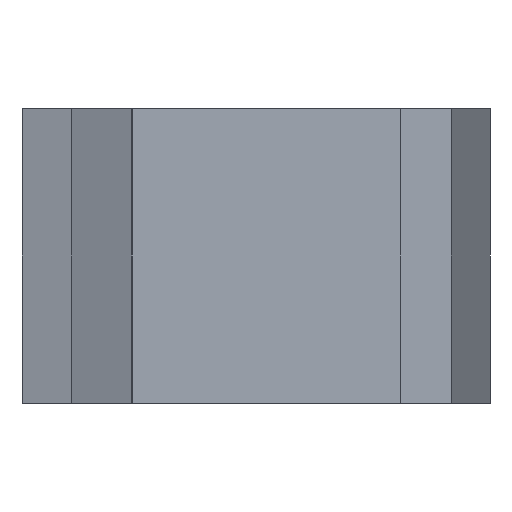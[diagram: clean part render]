
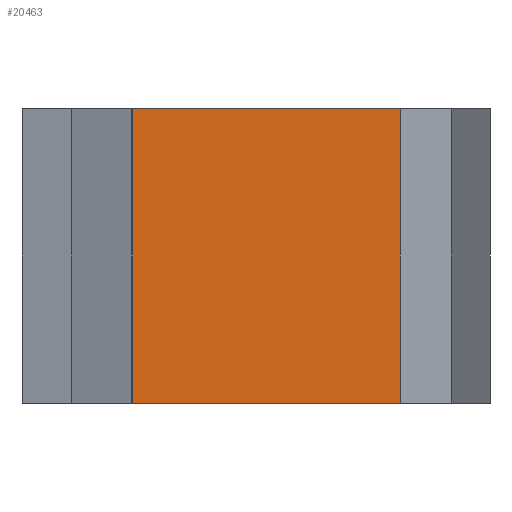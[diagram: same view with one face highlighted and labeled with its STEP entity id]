
A CAD part, left-side view. The second image highlights one B-rep face of the part: STEP entity #20463.
In plain terms, the highlighted planar face has unit normal (-1, 0, 0).
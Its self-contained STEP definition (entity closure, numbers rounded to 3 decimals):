
#72 = PLANE('',#73);
#73 = AXIS2_PLACEMENT_3D('',#74,#75,#76);
#74 = CARTESIAN_POINT('',(66.451,34.019,7.5));
#75 = DIRECTION('',(-0.,0.,-1.));
#76 = DIRECTION('',(1.,0.,0.));
#126 = PLANE('',#127);
#127 = AXIS2_PLACEMENT_3D('',#128,#129,#130);
#128 = CARTESIAN_POINT('',(66.451,34.019,-7.5));
#129 = DIRECTION('',(-0.,0.,-1.));
#130 = DIRECTION('',(1.,0.,0.));
#627 = VERTEX_POINT('',#628);
#628 = CARTESIAN_POINT('',(50.,43.394,-7.5));
#642 = PLANE('',#643);
#643 = AXIS2_PLACEMENT_3D('',#644,#645,#646);
#644 = CARTESIAN_POINT('',(50.,43.396,-7.5));
#645 = DIRECTION('',(-0.999,-0.05,-0.));
#646 = DIRECTION('',(-0.05,0.999,0.));
#654 = EDGE_CURVE('',#627,#655,#657,.T.);
#655 = VERTEX_POINT('',#656);
#656 = CARTESIAN_POINT('',(50.,29.439,-7.5));
#657 = SURFACE_CURVE('',#658,(#662,#669),.PCURVE_S1.);
#658 = LINE('',#659,#660);
#659 = CARTESIAN_POINT('',(50.,43.394,-7.5));
#660 = VECTOR('',#661,1.);
#661 = DIRECTION('',(-0.,-1.,-0.));
#662 = PCURVE('',#126,#663);
#663 = DEFINITIONAL_REPRESENTATION('',(#664),#668);
#664 = LINE('',#665,#666);
#665 = CARTESIAN_POINT('',(-16.451,-9.375));
#666 = VECTOR('',#667,1.);
#667 = DIRECTION('',(-0.,1.));
#668 = ( GEOMETRIC_REPRESENTATION_CONTEXT(2) 
PARAMETRIC_REPRESENTATION_CONTEXT() REPRESENTATION_CONTEXT('2D SPACE',''
  ) );
#669 = PCURVE('',#670,#675);
#670 = PLANE('',#671);
#671 = AXIS2_PLACEMENT_3D('',#672,#673,#674);
#672 = CARTESIAN_POINT('',(50.,43.394,-7.5));
#673 = DIRECTION('',(-1.,-0.,-0.));
#674 = DIRECTION('',(0.,1.,0.));
#675 = DEFINITIONAL_REPRESENTATION('',(#676),#680);
#676 = LINE('',#677,#678);
#677 = CARTESIAN_POINT('',(-0.,-0.));
#678 = VECTOR('',#679,1.);
#679 = DIRECTION('',(-1.,0.));
#680 = ( GEOMETRIC_REPRESENTATION_CONTEXT(2) 
PARAMETRIC_REPRESENTATION_CONTEXT() REPRESENTATION_CONTEXT('2D SPACE',''
  ) );
#698 = PLANE('',#699);
#699 = AXIS2_PLACEMENT_3D('',#700,#701,#702);
#700 = CARTESIAN_POINT('',(50.,29.439,-7.5));
#701 = DIRECTION('',(-0.999,0.05,0.));
#702 = DIRECTION('',(0.05,0.999,0.));
#11242 = VERTEX_POINT('',#11243);
#11243 = CARTESIAN_POINT('',(50.,43.394,7.5));
#11264 = EDGE_CURVE('',#11242,#11265,#11267,.T.);
#11265 = VERTEX_POINT('',#11266);
#11266 = CARTESIAN_POINT('',(50.,29.439,7.5));
#11267 = SURFACE_CURVE('',#11268,(#11272,#11279),.PCURVE_S1.);
#11268 = LINE('',#11269,#11270);
#11269 = CARTESIAN_POINT('',(50.,43.394,7.5));
#11270 = VECTOR('',#11271,1.);
#11271 = DIRECTION('',(-0.,-1.,-0.));
#11272 = PCURVE('',#72,#11273);
#11273 = DEFINITIONAL_REPRESENTATION('',(#11274),#11278);
#11274 = LINE('',#11275,#11276);
#11275 = CARTESIAN_POINT('',(-16.451,-9.375));
#11276 = VECTOR('',#11277,1.);
#11277 = DIRECTION('',(-0.,1.));
#11278 = ( GEOMETRIC_REPRESENTATION_CONTEXT(2) 
PARAMETRIC_REPRESENTATION_CONTEXT() REPRESENTATION_CONTEXT('2D SPACE',''
  ) );
#11279 = PCURVE('',#670,#11280);
#11280 = DEFINITIONAL_REPRESENTATION('',(#11281),#11285);
#11281 = LINE('',#11282,#11283);
#11282 = CARTESIAN_POINT('',(-0.,-15.));
#11283 = VECTOR('',#11284,1.);
#11284 = DIRECTION('',(-1.,0.));
#11285 = ( GEOMETRIC_REPRESENTATION_CONTEXT(2) 
PARAMETRIC_REPRESENTATION_CONTEXT() REPRESENTATION_CONTEXT('2D SPACE',''
  ) );
#20415 = EDGE_CURVE('',#627,#11242,#20416,.T.);
#20416 = SURFACE_CURVE('',#20417,(#20421,#20428),.PCURVE_S1.);
#20417 = LINE('',#20418,#20419);
#20418 = CARTESIAN_POINT('',(50.,43.394,-7.5));
#20419 = VECTOR('',#20420,1.);
#20420 = DIRECTION('',(-0.,-0.,1.));
#20421 = PCURVE('',#642,#20422);
#20422 = DEFINITIONAL_REPRESENTATION('',(#20423),#20427);
#20423 = LINE('',#20424,#20425);
#20424 = CARTESIAN_POINT('',(-0.002,0.));
#20425 = VECTOR('',#20426,1.);
#20426 = DIRECTION('',(-0.,-1.));
#20427 = ( GEOMETRIC_REPRESENTATION_CONTEXT(2) 
PARAMETRIC_REPRESENTATION_CONTEXT() REPRESENTATION_CONTEXT('2D SPACE',''
  ) );
#20428 = PCURVE('',#670,#20429);
#20429 = DEFINITIONAL_REPRESENTATION('',(#20430),#20434);
#20430 = LINE('',#20431,#20432);
#20431 = CARTESIAN_POINT('',(-0.,-0.));
#20432 = VECTOR('',#20433,1.);
#20433 = DIRECTION('',(-0.,-1.));
#20434 = ( GEOMETRIC_REPRESENTATION_CONTEXT(2) 
PARAMETRIC_REPRESENTATION_CONTEXT() REPRESENTATION_CONTEXT('2D SPACE',''
  ) );
#20463 = ADVANCED_FACE('',(#20464),#670,.T.);
#20464 = FACE_BOUND('',#20465,.F.);
#20465 = EDGE_LOOP('',(#20466,#20467,#20468,#20489));
#20466 = ORIENTED_EDGE('',*,*,#20415,.T.);
#20467 = ORIENTED_EDGE('',*,*,#11264,.T.);
#20468 = ORIENTED_EDGE('',*,*,#20469,.F.);
#20469 = EDGE_CURVE('',#655,#11265,#20470,.T.);
#20470 = SURFACE_CURVE('',#20471,(#20475,#20482),.PCURVE_S1.);
#20471 = LINE('',#20472,#20473);
#20472 = CARTESIAN_POINT('',(50.,29.439,-7.5));
#20473 = VECTOR('',#20474,1.);
#20474 = DIRECTION('',(-0.,-0.,1.));
#20475 = PCURVE('',#670,#20476);
#20476 = DEFINITIONAL_REPRESENTATION('',(#20477),#20481);
#20477 = LINE('',#20478,#20479);
#20478 = CARTESIAN_POINT('',(-13.955,0.));
#20479 = VECTOR('',#20480,1.);
#20480 = DIRECTION('',(-0.,-1.));
#20481 = ( GEOMETRIC_REPRESENTATION_CONTEXT(2) 
PARAMETRIC_REPRESENTATION_CONTEXT() REPRESENTATION_CONTEXT('2D SPACE',''
  ) );
#20482 = PCURVE('',#698,#20483);
#20483 = DEFINITIONAL_REPRESENTATION('',(#20484),#20488);
#20484 = LINE('',#20485,#20486);
#20485 = CARTESIAN_POINT('',(-0.,-0.));
#20486 = VECTOR('',#20487,1.);
#20487 = DIRECTION('',(-0.,-1.));
#20488 = ( GEOMETRIC_REPRESENTATION_CONTEXT(2) 
PARAMETRIC_REPRESENTATION_CONTEXT() REPRESENTATION_CONTEXT('2D SPACE',''
  ) );
#20489 = ORIENTED_EDGE('',*,*,#654,.F.);
